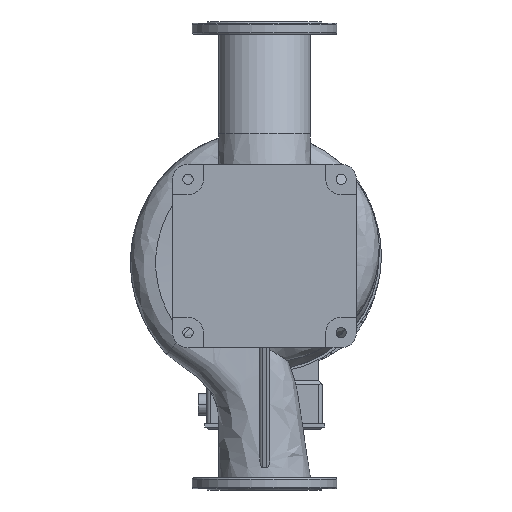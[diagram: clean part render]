
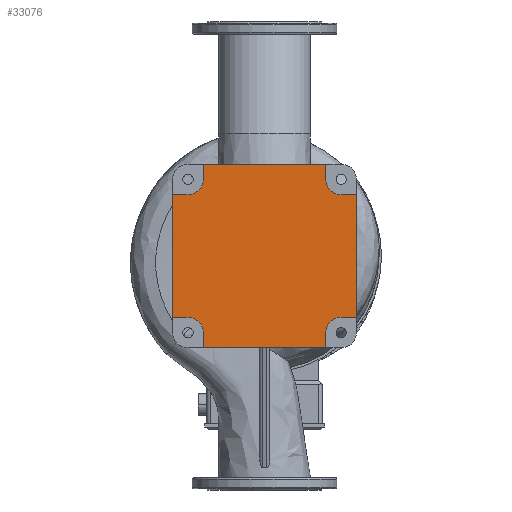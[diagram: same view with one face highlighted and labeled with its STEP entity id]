
A CAD part, front view. The second image highlights one B-rep face of the part: STEP entity #33076.
In plain terms, the highlighted planar face has unit normal (0, -1, 0).
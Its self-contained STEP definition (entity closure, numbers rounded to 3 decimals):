
#66 = ORIENTED_EDGE ( 'NONE', *, *, #22714, .T. ) ;
#210 = CARTESIAN_POINT ( 'NONE',  ( 216., -265., 144. ) ) ;
#650 = EDGE_CURVE ( 'NONE', #11599, #27894, #25307, .T. ) ;
#797 = CARTESIAN_POINT ( 'NONE',  ( -216., -265., -144. ) ) ;
#1153 = CARTESIAN_POINT ( 'NONE',  ( 144., -265., -180. ) ) ;
#1346 = CARTESIAN_POINT ( 'NONE',  ( -180., -265., 180. ) ) ;
#1552 = CARTESIAN_POINT ( 'NONE',  ( -144., -265., 180. ) ) ;
#1561 = DIRECTION ( 'NONE',  ( 0., 1., 0. ) ) ;
#2086 = VECTOR ( 'NONE', #23369, 1000. ) ;
#2367 = EDGE_CURVE ( 'NONE', #3386, #34064, #4959, .T. ) ;
#2503 = VERTEX_POINT ( 'NONE', #21103 ) ;
#2873 = VECTOR ( 'NONE', #9493, 1000. ) ;
#3047 = CARTESIAN_POINT ( 'NONE',  ( -180., -265., 144. ) ) ;
#3386 = VERTEX_POINT ( 'NONE', #12274 ) ;
#3474 = DIRECTION ( 'NONE',  ( 0., 0., 1. ) ) ;
#3865 = CARTESIAN_POINT ( 'NONE',  ( -144., -265., 216. ) ) ;
#3882 = CARTESIAN_POINT ( 'NONE',  ( -180., -265., -180. ) ) ;
#3947 = DIRECTION ( 'NONE',  ( 0., 0., 1. ) ) ;
#4376 = LINE ( 'NONE', #3865, #30729 ) ;
#4770 = CIRCLE ( 'NONE', #24769, 36. ) ;
#4897 = CARTESIAN_POINT ( 'NONE',  ( -216., -265., -144. ) ) ;
#4959 = LINE ( 'NONE', #24091, #28412 ) ;
#5045 = EDGE_CURVE ( 'NONE', #34064, #2503, #19426, .T. ) ;
#5175 = VERTEX_POINT ( 'NONE', #20811 ) ;
#5828 = CARTESIAN_POINT ( 'NONE',  ( 180., -265., 144. ) ) ;
#5978 = ORIENTED_EDGE ( 'NONE', *, *, #14363, .T. ) ;
#5995 = CARTESIAN_POINT ( 'NONE',  ( 144., -265., 180. ) ) ;
#6369 = EDGE_CURVE ( 'NONE', #27894, #10610, #35340, .T. ) ;
#6456 = VECTOR ( 'NONE', #32550, 1000. ) ;
#6696 = VECTOR ( 'NONE', #7407, 1000. ) ;
#6982 = CARTESIAN_POINT ( 'NONE',  ( 180., -265., -144. ) ) ;
#7108 = ORIENTED_EDGE ( 'NONE', *, *, #29601, .T. ) ;
#7369 = CARTESIAN_POINT ( 'NONE',  ( 180., -265., -144. ) ) ;
#7407 = DIRECTION ( 'NONE',  ( 0., 0., 1. ) ) ;
#7717 = AXIS2_PLACEMENT_3D ( 'NONE', #1346, #31952, #18155 ) ;
#8134 = ORIENTED_EDGE ( 'NONE', *, *, #16807, .T. ) ;
#8310 = VERTEX_POINT ( 'NONE', #22725 ) ;
#8368 = VERTEX_POINT ( 'NONE', #34026 ) ;
#8403 = EDGE_CURVE ( 'NONE', #10610, #8368, #16260, .T. ) ;
#8717 = LINE ( 'NONE', #24455, #6456 ) ;
#9320 = CARTESIAN_POINT ( 'NONE',  ( -180., -265., -180. ) ) ;
#9369 = CARTESIAN_POINT ( 'NONE',  ( 144., -265., 180. ) ) ;
#9493 = DIRECTION ( 'NONE',  ( 1., 0., 0. ) ) ;
#9531 = EDGE_CURVE ( 'NONE', #5175, #8310, #10000, .T. ) ;
#9825 = VERTEX_POINT ( 'NONE', #10262 ) ;
#10000 = CIRCLE ( 'NONE', #7717, 36. ) ;
#10041 = VECTOR ( 'NONE', #22611, 1000. ) ;
#10256 = ORIENTED_EDGE ( 'NONE', *, *, #29165, .T. ) ;
#10262 = CARTESIAN_POINT ( 'NONE',  ( 144., -265., 216. ) ) ;
#10610 = VERTEX_POINT ( 'NONE', #19891 ) ;
#10804 = DIRECTION ( 'NONE',  ( 1., 0., 0. ) ) ;
#10984 = EDGE_CURVE ( 'NONE', #27859, #17489, #4770, .T. ) ;
#11172 = CARTESIAN_POINT ( 'NONE',  ( 144., -265., -216. ) ) ;
#11183 = ORIENTED_EDGE ( 'NONE', *, *, #24033, .T. ) ;
#11543 = CARTESIAN_POINT ( 'NONE',  ( -144., -265., 216. ) ) ;
#11599 = VERTEX_POINT ( 'NONE', #30400 ) ;
#11669 = LINE ( 'NONE', #30654, #15006 ) ;
#11681 = AXIS2_PLACEMENT_3D ( 'NONE', #9320, #31167, #3947 ) ;
#12274 = CARTESIAN_POINT ( 'NONE',  ( 216., -265., -144. ) ) ;
#12382 = ORIENTED_EDGE ( 'NONE', *, *, #6369, .T. ) ;
#13912 = ORIENTED_EDGE ( 'NONE', *, *, #8403, .T. ) ;
#13974 = DIRECTION ( 'NONE',  ( 0., 1., 0. ) ) ;
#14363 = EDGE_CURVE ( 'NONE', #33399, #5175, #28762, .T. ) ;
#14429 = VECTOR ( 'NONE', #3474, 1000. ) ;
#14970 = FACE_OUTER_BOUND ( 'NONE', #32160, .T. ) ;
#15006 = VECTOR ( 'NONE', #33521, 1000. ) ;
#15818 = CARTESIAN_POINT ( 'NONE',  ( -180., -265., -144. ) ) ;
#16248 = DIRECTION ( 'NONE',  ( 0., 0., 1. ) ) ;
#16260 = CIRCLE ( 'NONE', #11681, 36. ) ;
#16377 = EDGE_CURVE ( 'NONE', #2503, #18600, #19896, .T. ) ;
#16807 = EDGE_CURVE ( 'NONE', #9825, #33399, #4376, .T. ) ;
#17024 = EDGE_CURVE ( 'NONE', #17180, #27859, #26554, .T. ) ;
#17180 = VERTEX_POINT ( 'NONE', #11172 ) ;
#17489 = VERTEX_POINT ( 'NONE', #7369 ) ;
#17603 = ORIENTED_EDGE ( 'NONE', *, *, #5045, .T. ) ;
#17657 = DIRECTION ( 'NONE',  ( 0., 0., 1. ) ) ;
#17808 = DIRECTION ( 'NONE',  ( -1., 0., 0. ) ) ;
#18155 = DIRECTION ( 'NONE',  ( 0., 0., 1. ) ) ;
#18404 = ORIENTED_EDGE ( 'NONE', *, *, #16377, .T. ) ;
#18600 = VERTEX_POINT ( 'NONE', #5995 ) ;
#18880 = ORIENTED_EDGE ( 'NONE', *, *, #650, .T. ) ;
#19426 = LINE ( 'NONE', #5828, #27424 ) ;
#19891 = CARTESIAN_POINT ( 'NONE',  ( -180., -265., -144. ) ) ;
#19896 = CIRCLE ( 'NONE', #23881, 36. ) ;
#19943 = DIRECTION ( 'NONE',  ( -1., 0., 0. ) ) ;
#20811 = CARTESIAN_POINT ( 'NONE',  ( -144., -265., 180. ) ) ;
#21103 = CARTESIAN_POINT ( 'NONE',  ( 180., -265., 144. ) ) ;
#22003 = DIRECTION ( 'NONE',  ( -1., 0., 0. ) ) ;
#22029 = EDGE_CURVE ( 'NONE', #18600, #9825, #22953, .T. ) ;
#22476 = VECTOR ( 'NONE', #10804, 1000. ) ;
#22611 = DIRECTION ( 'NONE',  ( 0., 0., -1. ) ) ;
#22618 = ORIENTED_EDGE ( 'NONE', *, *, #9531, .T. ) ;
#22714 = EDGE_CURVE ( 'NONE', #8368, #31482, #8717, .T. ) ;
#22725 = CARTESIAN_POINT ( 'NONE',  ( -180., -265., 144. ) ) ;
#22872 = VECTOR ( 'NONE', #22003, 1000. ) ;
#22953 = LINE ( 'NONE', #9369, #14429 ) ;
#23044 = DIRECTION ( 'NONE',  ( 0., 0., 1. ) ) ;
#23369 = DIRECTION ( 'NONE',  ( 0., 0., -1. ) ) ;
#23881 = AXIS2_PLACEMENT_3D ( 'NONE', #25905, #1561, #23044 ) ;
#24024 = ORIENTED_EDGE ( 'NONE', *, *, #17024, .T. ) ;
#24033 = EDGE_CURVE ( 'NONE', #31482, #17180, #11669, .T. ) ;
#24091 = CARTESIAN_POINT ( 'NONE',  ( 216., -265., 144. ) ) ;
#24155 = DIRECTION ( 'NONE',  ( 0., 0., 1. ) ) ;
#24455 = CARTESIAN_POINT ( 'NONE',  ( -144., -265., -180. ) ) ;
#24769 = AXIS2_PLACEMENT_3D ( 'NONE', #32426, #13974, #24155 ) ;
#25307 = LINE ( 'NONE', #797, #10041 ) ;
#25601 = LINE ( 'NONE', #6982, #2873 ) ;
#25905 = CARTESIAN_POINT ( 'NONE',  ( 180., -265., 180. ) ) ;
#26056 = AXIS2_PLACEMENT_3D ( 'NONE', #3882, #28230, #17657 ) ;
#26554 = LINE ( 'NONE', #34806, #6696 ) ;
#27424 = VECTOR ( 'NONE', #19943, 1000. ) ;
#27859 = VERTEX_POINT ( 'NONE', #1153 ) ;
#27894 = VERTEX_POINT ( 'NONE', #4897 ) ;
#28230 = DIRECTION ( 'NONE',  ( 0., 1., 0. ) ) ;
#28412 = VECTOR ( 'NONE', #16248, 1000. ) ;
#28762 = LINE ( 'NONE', #1552, #2086 ) ;
#29165 = EDGE_CURVE ( 'NONE', #17489, #3386, #25601, .T. ) ;
#29404 = CARTESIAN_POINT ( 'NONE',  ( -144., -265., -216. ) ) ;
#29601 = EDGE_CURVE ( 'NONE', #8310, #11599, #32777, .T. ) ;
#29700 = ORIENTED_EDGE ( 'NONE', *, *, #2367, .T. ) ;
#30400 = CARTESIAN_POINT ( 'NONE',  ( -216., -265., 144. ) ) ;
#30654 = CARTESIAN_POINT ( 'NONE',  ( 144., -265., -216. ) ) ;
#30729 = VECTOR ( 'NONE', #17808, 1000. ) ;
#31167 = DIRECTION ( 'NONE',  ( 0., 1., 0. ) ) ;
#31169 = ORIENTED_EDGE ( 'NONE', *, *, #10984, .T. ) ;
#31482 = VERTEX_POINT ( 'NONE', #29404 ) ;
#31952 = DIRECTION ( 'NONE',  ( 0., 1., 0. ) ) ;
#32160 = EDGE_LOOP ( 'NONE', ( #13912, #66, #11183, #24024, #31169, #10256, #29700, #17603, #18404, #33739, #8134, #5978, #22618, #7108, #18880, #12382 ) ) ;
#32426 = CARTESIAN_POINT ( 'NONE',  ( 180., -265., -180. ) ) ;
#32550 = DIRECTION ( 'NONE',  ( 0., 0., -1. ) ) ;
#32777 = LINE ( 'NONE', #3047, #22872 ) ;
#33076 = ADVANCED_FACE ( 'NONE', ( #14970 ), #33963, .F. ) ;
#33399 = VERTEX_POINT ( 'NONE', #11543 ) ;
#33521 = DIRECTION ( 'NONE',  ( 1., 0., 0. ) ) ;
#33739 = ORIENTED_EDGE ( 'NONE', *, *, #22029, .T. ) ;
#33963 = PLANE ( 'NONE',  #26056 ) ;
#34026 = CARTESIAN_POINT ( 'NONE',  ( -144., -265., -180. ) ) ;
#34064 = VERTEX_POINT ( 'NONE', #210 ) ;
#34806 = CARTESIAN_POINT ( 'NONE',  ( 144., -265., -180. ) ) ;
#35340 = LINE ( 'NONE', #15818, #22476 ) ;
